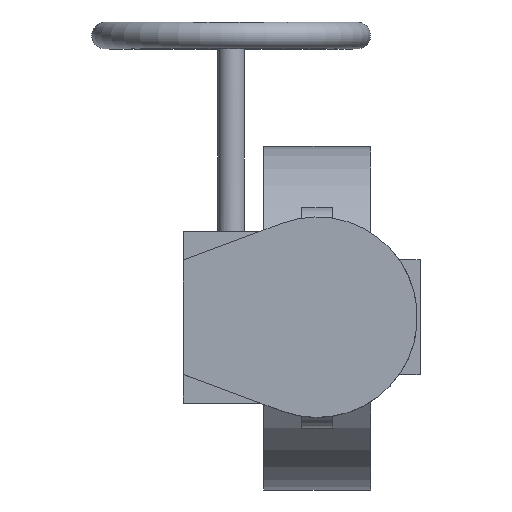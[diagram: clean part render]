
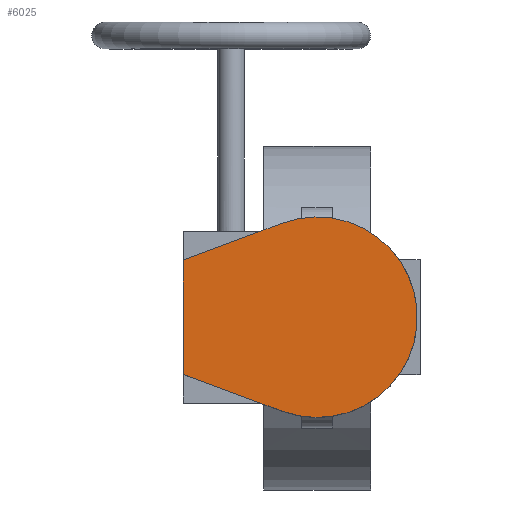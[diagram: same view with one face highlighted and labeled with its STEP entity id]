
A CAD part, top view. The second image highlights one B-rep face of the part: STEP entity #6025.
In plain terms, the highlighted planar face has unit normal (0, 0, 1).
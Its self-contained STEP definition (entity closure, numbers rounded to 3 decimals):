
#6025=ADVANCED_FACE('',(#10949),#10951,.T.);
#10949=FACE_BOUND('',#10950,.T.);
#10950=EDGE_LOOP('',(#14895,#14896,#14897,#14898));
#10951=PLANE('',#10952);
#10952=AXIS2_PLACEMENT_3D('',#10953,#10954,#10955);
#10953=CARTESIAN_POINT('',(0.,0.,278.));
#10954=DIRECTION('',(0.,0.,1.));
#10955=DIRECTION('',(0.,1.,0.));
#14895=ORIENTED_EDGE('',*,*,#16893,.T.);
#14896=ORIENTED_EDGE('',*,*,#16889,.T.);
#14897=ORIENTED_EDGE('',*,*,#16882,.T.);
#14898=ORIENTED_EDGE('',*,*,#16877,.T.);
#16877=EDGE_CURVE('',#20092,#20090,#20093,.T.);
#16882=EDGE_CURVE('',#20100,#20092,#20101,.T.);
#16889=EDGE_CURVE('',#20113,#20100,#20114,.T.);
#16893=EDGE_CURVE('',#20090,#20113,#20119,.T.);
#20090=VERTEX_POINT('',#28531);
#20092=VERTEX_POINT('',#28535);
#20093=LINE('',#28536,#28537);
#20100=VERTEX_POINT('',#28553);
#20101=LINE('',#28554,#28555);
#20113=VERTEX_POINT('',#28580);
#20114=LINE('',#28581,#28582);
#20119=CIRCLE('',#28594,52.5);
#28531=CARTESIAN_POINT('',(-18.284,-49.213,278.));
#28535=CARTESIAN_POINT('',(-70.,-30.,278.));
#28536=CARTESIAN_POINT('',(-70.,-30.,278.));
#28537=VECTOR('',#28538,1.);
#28538=DIRECTION('',(0.937,-0.348,0.));
#28553=CARTESIAN_POINT('',(-70.,30.,278.));
#28554=CARTESIAN_POINT('',(-70.,30.,278.));
#28555=VECTOR('',#28556,1.);
#28556=DIRECTION('',(0.,-1.,0.));
#28580=CARTESIAN_POINT('',(-18.284,49.213,278.));
#28581=CARTESIAN_POINT('',(-18.284,49.213,278.));
#28582=VECTOR('',#28583,1.);
#28583=DIRECTION('',(-0.937,-0.348,0.));
#28594=AXIS2_PLACEMENT_3D('',#28595,#28596,#28597);
#28595=CARTESIAN_POINT('',(0.,0.,278.));
#28596=DIRECTION('',(0.,0.,1.));
#28597=DIRECTION('',(-0.348,-0.937,0.));
